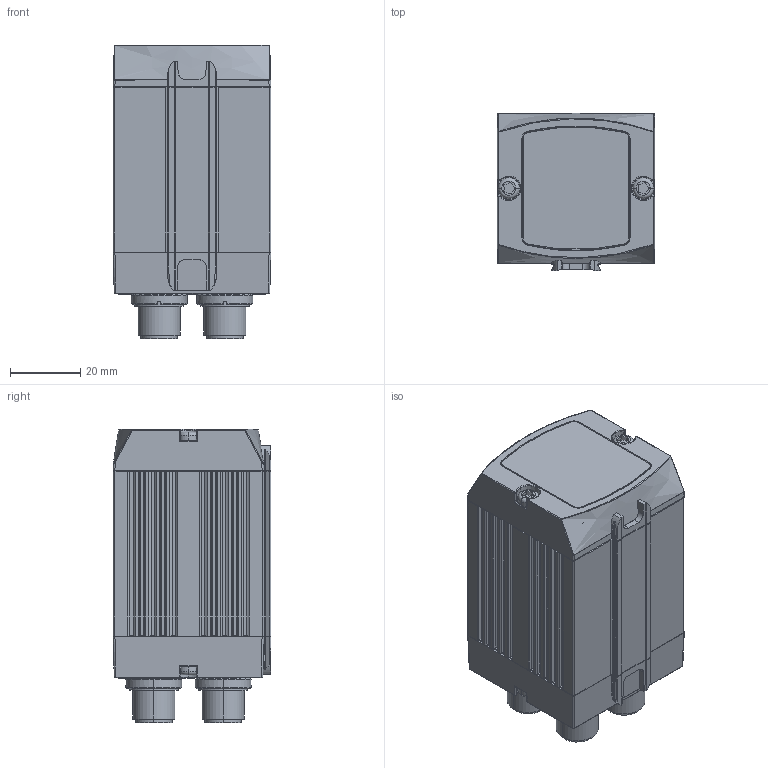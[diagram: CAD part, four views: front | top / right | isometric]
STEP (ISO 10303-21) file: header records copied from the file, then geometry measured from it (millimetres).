
FILE_DESCRIPTION(('OneSpaceDesigner STEP Export'),'2;1');
FILE_NAME('541394.stp','2005-09-22T10:34:07',(''),(''),'OneSpace Designer STEP processor (Jan. 2003) for AP214(CD)(Solid Model)','OneSpace Designer 12.01C 26-Mar-2004 (C) CoCreate Software GmbH','');
FILE_SCHEMA(('AUTOMOTIVE_DESIGN_CC2 {1 2 10303 214 -1 1 5 1}'));
Length unit declared in the file: millimetre
Products named in the file (65): 00690316_FLANSCH_M12X1; 00690315_STECKER_RSEL-8; P9374E31_STECKER-BG; P9374E28_STECKER-BG; P9374E30_STECKER-BG; P9374E29_STECKER-BG; P9374E24_STECKER-BG; P9374E26_STECKER-BG; P9374E27_STECKER-BG; P9374E25_STECKER-BG; P9374E33_STECKER-BG; P9374E37_STECKER-BG; P9374E38_STECKER-BG; P9374E40_STECKER-BG; P9374E39_STECKER-BG; P9374E34_STECKER-BG; P9374E36_STECKER-BG; P9374E35_STECKER-BG; 00690317_O-RING_D3771_12X1-N-NBR70; 00690318_STECKER-BG_8-POL; 00690319_STECKER_RSEL-5; P9374E11_STECKER; P9374E12_STECKER; P9374E13_STECKER; P9374E14_STECKER; P9374E15_STECKER; P9374E16_STEKCER; P9374E17_STECKER; P9374E18_STECKER; P9374E19_STECKER; P9374E70_STECKER; 00690320_STECKER-BG_5-POL; 00690301_GEHAEUSE_SBOI-.-R1B; 00690302_SCHEIBE_SBOI-.-R1B; 00690637_DECKEL-BG_SBOI-.-R1B-VORNE; 00690304_DECKEL_SBOI_SBOC-.-R1B; 00690326_FOLIE_SBOI-.-R1B; 00690305_DREHMODUL_SBOI_SBOC-.-R1B; 00690306_DECKEL-BG_SBOI-.-R1B-HINTEN; P9376E04_OBJEKTIV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
Assembly tree (72 placements, depth 5):
  00541394_KOMP.KAMERASYS._SBOI-C-R1B.1.1
    00690323_GEHAEUSEPROFIL_SBOI_SBOC-.-R1B
    00690303_GEHAEUSE-BG_SBOI-.-R1B
      00690193_LEITERPLATTE_SBOI-.-R1B-LED
      00690325_SCHRAUBE_TORX_D3X16_VERZ.  x4
      00690190_LEITERPLATTE_SBOI_SBOC-.-R1B-BACKPL.
        P9374E54_LEITERPLATTE
        P9374E43_LEITERPLATTE
        P9374E67_LEITERPLATTE
        P9374E32_LEITERPLATTE
      00690191_LEITERPLATTE_SBOI_SBOC-.-R1B-ETHERNET
        P9375E43_LEITERPLATTE
        P9375E57_LEITERPLATTE
        P9375E54_LEITERPLATTE
        P9375E60_LEITERPLATTE
        P9375E30_LEITERPLATTE
        P9375E17_LEITERPLATTE
      00690189_LEITERPLATTE_SBOI_SBOC-.-R1B-CPU
      00690328_SCHLITZMUTTER_M14X1  x3
      00690314_OBJEKTIV_SBOI-.-R1B
        P9376E01_OBEJKTIV
        P9376E34_OBJEKTIV
        00690192_LEITERPLATTE_SBOI_SBOC-.-R1B-SENSOR
          P9375E02_LEITERPLATTE
        P9376E35_OBJEKTIV
        P9376E04_OBJEKTIV
      00690306_DECKEL-BG_SBOI-.-R1B-HINTEN
        00690305_DREHMODUL_SBOI_SBOC-.-R1B
        00690326_FOLIE_SBOI-.-R1B
        00690304_DECKEL_SBOI_SBOC-.-R1B
      00690637_DECKEL-BG_SBOI-.-R1B-VORNE
        00690302_SCHEIBE_SBOI-.-R1B
        00690301_GEHAEUSE_SBOI-.-R1B
      00690318_STECKER-BG_8-POL  x2
        00690317_O-RING_D3771_12X1-N-NBR70
        P9374E35_STECKER-BG
        P9374E36_STECKER-BG
        P9374E34_STECKER-BG
        P9374E39_STECKER-BG
        P9374E40_STECKER-BG
        P9374E38_STECKER-BG
        P9374E37_STECKER-BG
        P9374E33_STECKER-BG
        P9374E25_STECKER-BG
        P9374E27_STECKER-BG
        P9374E26_STECKER-BG
        P9374E24_STECKER-BG
        P9374E29_STECKER-BG
        P9374E30_STECKER-BG
        P9374E28_STECKER-BG
        P9374E31_STECKER-BG
        00690315_STECKER_RSEL-8
        00690316_FLANSCH_M12X1
      00690320_STECKER-BG_5-POL
        00690317_O-RING_D3771_12X1-N-NBR70
        00690316_FLANSCH_M12X1
        P9374E70_STECKER
        P9374E19_STECKER
        P9374E18_STECKER
        P9374E17_STECKER
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Bounding box: 45 x 45 x 83.7 mm (x, y, z)
Volume: 54486.9 mm3; surface area: 51403.8 mm2
Topology: 68 solids, 70 shells, 2494 faces, 6891 edges, 4587 vertices
Faces by surface type: plane 1400, cylinder 702, cone 228, torus 74, sphere 46, bspline 44
Entity records: 63938 total; most frequent: CARTESIAN_POINT 15834, ORIENTED_EDGE 10474, DIRECTION 8796, EDGE_CURVE 5246, VERTEX_POINT 3505, VECTOR 3386, LINE 3386, AXIS2_PLACEMENT_3D 2705
